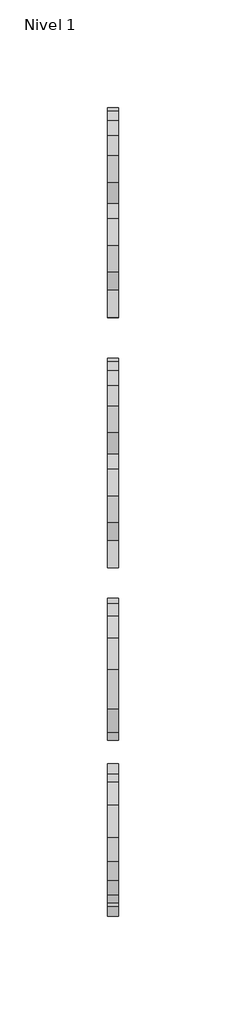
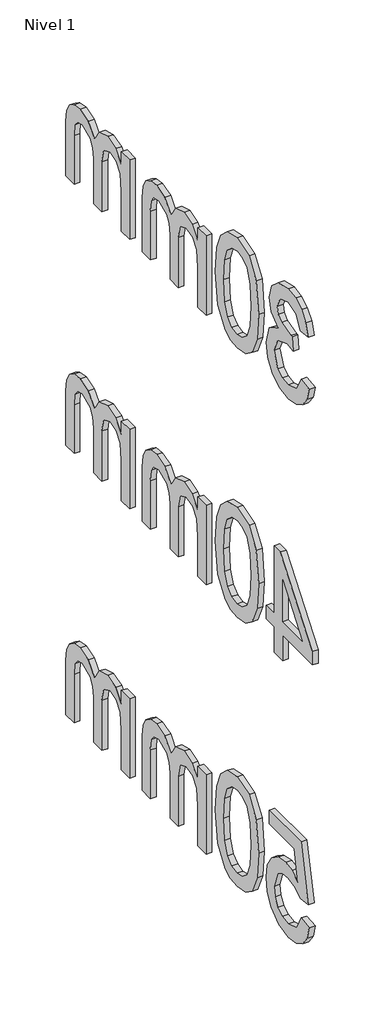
# One storey, incomplete: 3 proxies.
"""IFC4 building model written with IfcOpenShell, lengths in millimetres."""

from ifc_helpers import new_model, si_unit, frame, origin, place, context, project, spatial, polyline, outline, extrude, element, save

model = new_model("IFC4")

# Units and contexts
model_context = context("Model", 3, world=origin())
ifc_project = project(units=[si_unit("LENGTHUNIT", "METRE", prefix="MILLI")], contexts=[model_context])

# Site, building, storey
site = spatial("IfcSite", under=ifc_project)
building = spatial("IfcBuilding", under=site)
storey = spatial("IfcBuildingStorey", under=building, Name="Nivel 1", Elevation=0.0)

# Proxies
placement = place(None, origin())
element("IfcBuildingElementProxy", 1, Name="100mm Arial", ObjectType="100mm Arial", at=placement, inside=storey, context=model_context, shape_type="SweptSolid", body=[
    extrude(outline(polyline([(14811.6332666, -40.4578656), (14824.1903054, -38.8882358), (14831.1187496, -52.1074622), (14844.0804586, -56.1541641), (14852.6888973, -54.7623439), (14859.3352987, -50.5868832), (14865.0006814, -36.8035712), (14859.3843496, -23.8173367), (14845.1105282, -18.6792515), (14836.3058858, -20.0526776), (14837.7038373, -7.4956389), (14839.7149256, -7.6427917), (14853.9642215, -4.0375481), (14858.7098993, 0.5364513), (14860.2917918, 7.0479627), (14855.7055296, 16.8704119), (14843.8842549, 20.7576984), (14831.9158273, 16.8336237), (14825.7599352, 5.0613999), (14813.2028965, 6.6310297), (14816.9001105, 17.9066129), (14823.4790669, 26.3249792), (14832.479913, 31.5672976), (14843.4427965, 33.3147371), (14858.5872719, 29.8689091), (14869.1822734, 20.45113), (14872.8488306, 7.7837267), (14869.3662144, -3.7922935), (14859.0655185, -12.1064266), (14872.7507287, -20.6903398), (14877.5577201, -37.0243004), (14875.1542244, -49.2625081), (14867.9437373, -59.4896275), (14857.0605616, -66.405809), (14843.6390002, -68.7112029), (14831.4988943, -66.7430342), (14821.6151314, -60.8385282), (14814.7418695, -51.8070252), (14811.6332666, -40.4578656)])), frame((9557.0230098, 0.0, 0.0), z_axis=(1.0, 0.0, 0.0), x_axis=(0.0, 1.0, 0.0)), (0.0, 0.0, 1.0), 5.0),
    extrude(outline(polyline([(14888.5451291, -17.7227583), (14892.2362118, 11.1805037), (14903.1990952, 27.8455581), (14921.5073558, 33.3147371), (14936.1735847, 30.0773756), (14946.3026023, 20.7454356), (14952.1887142, 5.883003), (14954.4695826, -17.7227583), (14950.8152881, -46.5033931), (14939.8891929, -63.2052357), (14931.6578332, -67.3347111), (14921.5073558, -68.7112029), (14908.4598077, -66.3199699), (14898.5515193, -59.146271), (14891.0467266, -42.1562542), (14888.5451291, -17.7227583)]), holes=[polyline([(14901.1021678, -17.6982329), (14902.5736958, -37.4504303), (14906.9882798, -48.8823633), (14913.5611047, -54.3362139), (14921.5073558, -56.1541641), (14929.4536069, -54.3300825), (14936.0264319, -48.8578379), (14940.4410159, -37.4197735), (14941.9125438, -17.6982329), (14940.4900668, 1.6094405), (14936.2226356, 13.1302783), (14929.6620734, 18.8508433), (14921.360203, 20.7576984), (14913.4997911, 19.0777039), (14907.1844835, 14.0377206), (14902.6227467, 1.7995129), (14901.1021678, -17.6982329)])]), frame((9557.0230098, 0.0, 0.0), z_axis=(1.0, 0.0, 0.0), x_axis=(0.0, 1.0, 0.0)), (0.0, 0.0, 1.0), 5.0),
    extrude(outline(polyline([(14968.5962512, -67.141573), (14968.5962512, 6.6310297), (14981.15329, 6.6310297), (14981.15329, -5.5090761), (14989.7862541, 4.4360005), (15002.0735128, 8.2006596), (15014.655077, 4.3624241), (15021.5712585, -6.3919929), (15031.3691823, 4.5524965), (15043.7422801, 8.2006596), (15053.181519, 6.6831464), (15060.1620798, 2.1306067), (15064.4754962, -5.5795868), (15065.9133017, -16.5700614), (15065.9133017, -67.141573), (15053.3562629, -67.141573), (15053.3562629, -21.965664), (15052.1913033, -11.4810272), (15047.972923, -6.3184165), (15040.7992241, -4.3563792), (15028.4506518, -9.3840998), (15024.7626348, -15.9262679), (15023.5332958, -25.4973312), (15023.5332958, -67.141573), (15010.9762571, -67.141573), (15010.9762571, -20.5677124), (15008.0699893, -8.4030811), (14998.5418456, -4.3563792), (14989.2466939, -7.0541805), (14983.0662764, -14.9513806), (14981.15329, -29.9364406), (14981.15329, -67.141573), (14968.5962512, -67.141573)])), frame((9557.0230098, 0.0, 0.0), z_axis=(1.0, 0.0, 0.0), x_axis=(0.0, 1.0, 0.0)), (0.0, 0.0, 1.0), 5.0),
    extrude(outline(polyline([(15084.7488598, -67.141573), (15084.7488598, 6.6310297), (15097.3058986, 6.6310297), (15097.3058986, -5.5090761), (15105.9388628, 4.4360005), (15118.2261214, 8.2006596), (15130.8076856, 4.3624241), (15137.7238671, -6.3919929), (15147.5217909, 4.5524965), (15159.8948887, 8.2006596), (15169.3341276, 6.6831464), (15176.3146884, 2.1306067), (15180.6281048, -5.5795868), (15182.0659103, -16.5700614), (15182.0659103, -67.141573), (15169.5088715, -67.141573), (15169.5088715, -21.965664), (15168.3439119, -11.4810272), (15164.1255317, -6.3184165), (15156.9518327, -4.3563792), (15144.6032604, -9.3840998), (15140.9152434, -15.9262679), (15139.6859044, -25.4973312), (15139.6859044, -67.141573), (15127.1288657, -67.141573), (15127.1288657, -20.5677124), (15124.2225979, -8.4030811), (15114.6944542, -4.3563792), (15105.3993025, -7.0541805), (15099.218885, -14.9513806), (15097.3058986, -29.9364406), (15097.3058986, -67.141573), (15084.7488598, -67.141573)])), frame((9557.0230098, 0.0, 0.0), z_axis=(1.0, 0.0, 0.0), x_axis=(0.0, 1.0, 0.0)), (0.0, 0.0, 1.0), 5.0),
])
element("IfcBuildingElementProxy", 2, Name="100mm Arial", ObjectType="100mm Arial", at=placement, inside=storey, context=model_context, shape_type="SweptSolid", body=[
    extrude(outline(polyline([(14852.4436426, -317.141573), (14852.4436426, -293.5971253), (14806.9243771, -293.5971253), (14806.9243771, -281.0400866), (14855.5829023, -218.2548927), (14865.0006814, -218.2548927), (14865.0006814, -281.0400866), (14877.5577201, -281.0400866), (14877.5577201, -293.5971253), (14865.0006814, -293.5971253), (14865.0006814, -317.141573), (14852.4436426, -317.141573)]), holes=[polyline([(14852.4436426, -281.0400866), (14852.4436426, -242.2407988), (14822.3754209, -281.0400866), (14852.4436426, -281.0400866)])]), frame((9557.0230098, 0.0, 0.0), z_axis=(1.0, 0.0, 0.0), x_axis=(0.0, 1.0, 0.0)), (0.0, 0.0, 1.0), 5.0),
    extrude(outline(polyline([(14888.5451291, -267.7227583), (14892.2362118, -238.8194963), (14903.1990952, -222.1544419), (14921.5073558, -216.6852629), (14936.1735847, -219.9226244), (14946.3026023, -229.2545644), (14952.1887142, -244.116997), (14954.4695826, -267.7227583), (14950.8152881, -296.5033931), (14939.8891929, -313.2052357), (14931.6578332, -317.3347111), (14921.5073558, -318.7112029), (14908.4598077, -316.3199699), (14898.5515193, -309.146271), (14891.0467266, -292.1562542), (14888.5451291, -267.7227583)]), holes=[polyline([(14901.1021678, -267.6982329), (14902.5736958, -287.4504303), (14906.9882798, -298.8823633), (14913.5611047, -304.3362139), (14921.5073558, -306.1541641), (14929.4536069, -304.3300825), (14936.0264319, -298.8578379), (14940.4410159, -287.4197735), (14941.9125438, -267.6982329), (14940.4900668, -248.3905595), (14936.2226356, -236.8697217), (14929.6620734, -231.1491567), (14921.360203, -229.2423016), (14913.4997911, -230.9222961), (14907.1844835, -235.9622794), (14902.6227467, -248.2004871), (14901.1021678, -267.6982329)])]), frame((9557.0230098, 0.0, 0.0), z_axis=(1.0, 0.0, 0.0), x_axis=(0.0, 1.0, 0.0)), (0.0, 0.0, 1.0), 5.0),
    extrude(outline(polyline([(14968.5962512, -317.141573), (14968.5962512, -243.3689703), (14981.15329, -243.3689703), (14981.15329, -255.5090761), (14989.7862541, -245.5639995), (15002.0735128, -241.7993404), (15014.655077, -245.6375759), (15021.5712585, -256.3919929), (15031.3691823, -245.4475035), (15043.7422801, -241.7993404), (15053.181519, -243.3168536), (15060.1620798, -247.8693933), (15064.4754962, -255.5795868), (15065.9133017, -266.5700614), (15065.9133017, -317.141573), (15053.3562629, -317.141573), (15053.3562629, -271.965664), (15052.1913033, -261.4810272), (15047.972923, -256.3184165), (15040.7992241, -254.3563792), (15028.4506518, -259.3840998), (15024.7626348, -265.9262679), (15023.5332958, -275.4973312), (15023.5332958, -317.141573), (15010.9762571, -317.141573), (15010.9762571, -270.5677124), (15008.0699893, -258.4030811), (14998.5418456, -254.3563792), (14989.2466939, -257.0541805), (14983.0662764, -264.9513806), (14981.15329, -279.9364406), (14981.15329, -317.141573), (14968.5962512, -317.141573)])), frame((9557.0230098, 0.0, 0.0), z_axis=(1.0, 0.0, 0.0), x_axis=(0.0, 1.0, 0.0)), (0.0, 0.0, 1.0), 5.0),
    extrude(outline(polyline([(15084.7488598, -317.141573), (15084.7488598, -243.3689703), (15097.3058986, -243.3689703), (15097.3058986, -255.5090761), (15105.9388628, -245.5639995), (15118.2261214, -241.7993404), (15130.8076856, -245.6375759), (15137.7238671, -256.3919929), (15147.5217909, -245.4475035), (15159.8948887, -241.7993404), (15169.3341276, -243.3168536), (15176.3146884, -247.8693933), (15180.6281048, -255.5795868), (15182.0659103, -266.5700614), (15182.0659103, -317.141573), (15169.5088715, -317.141573), (15169.5088715, -271.965664), (15168.3439119, -261.4810272), (15164.1255317, -256.3184165), (15156.9518327, -254.3563792), (15144.6032604, -259.3840998), (15140.9152434, -265.9262679), (15139.6859044, -275.4973312), (15139.6859044, -317.141573), (15127.1288657, -317.141573), (15127.1288657, -270.5677124), (15124.2225979, -258.4030811), (15114.6944542, -254.3563792), (15105.3993025, -257.0541805), (15099.218885, -264.9513806), (15097.3058986, -279.9364406), (15097.3058986, -317.141573), (15084.7488598, -317.141573)])), frame((9557.0230098, 0.0, 0.0), z_axis=(1.0, 0.0, 0.0), x_axis=(0.0, 1.0, 0.0)), (0.0, 0.0, 1.0), 5.0),
])
element("IfcBuildingElementProxy", 3, Name="100mm Arial", ObjectType="100mm Arial", at=placement, inside=storey, context=model_context, shape_type="SweptSolid", body=[
    extrude(outline(polyline([(14811.6332666, -540.4578656), (14824.1903054, -538.8882358), (14830.5178757, -551.8254193), (14843.6390002, -556.1541641), (14852.6398463, -554.6489136), (14859.3843496, -550.1331621), (14863.5965984, -543.1280758), (14865.0006814, -534.1548208), (14859.7399688, -519.2433373), (14853.1334213, -515.141453), (14843.8352039, -513.7741583), (14832.8110068, -515.9569248), (14825.7599352, -521.6223075), (14813.2028965, -520.0526776), (14824.1903054, -468.2548927), (14872.8488306, -468.2548927), (14872.8488306, -480.8119315), (14834.3438484, -480.8119315), (14828.9727713, -508.4766575), (14837.9429606, -503.032004), (14847.3423456, -501.2171195), (14859.0747156, -503.467331), (14868.8143914, -510.2179656), (14875.371888, -520.5063988), (14877.5577201, -533.3700059), (14875.5895515, -545.9270446), (14869.6850454, -556.6691989), (14858.3788055, -565.7007019), (14843.5899493, -568.7112029), (14831.2567054, -566.7767567), (14821.4311904, -560.9734182), (14814.6958842, -551.9756378), (14811.6332666, -540.4578656)])), frame((9557.0230098, 0.0, 0.0), z_axis=(1.0, 0.0, 0.0), x_axis=(0.0, 1.0, 0.0)), (0.0, 0.0, 1.0), 5.0),
    extrude(outline(polyline([(14888.5451291, -517.7227583), (14892.2362118, -488.8194963), (14903.1990952, -472.1544419), (14921.5073558, -466.6852629), (14936.1735847, -469.9226244), (14946.3026023, -479.2545644), (14952.1887142, -494.116997), (14954.4695826, -517.7227583), (14950.8152881, -546.5033931), (14939.8891929, -563.2052357), (14931.6578332, -567.3347111), (14921.5073558, -568.7112029), (14908.4598077, -566.3199699), (14898.5515193, -559.146271), (14891.0467266, -542.1562542), (14888.5451291, -517.7227583)]), holes=[polyline([(14901.1021678, -517.6982329), (14902.5736958, -537.4504303), (14906.9882798, -548.8823633), (14913.5611047, -554.3362139), (14921.5073558, -556.1541641), (14929.4536069, -554.3300825), (14936.0264319, -548.8578379), (14940.4410159, -537.4197735), (14941.9125438, -517.6982329), (14940.4900668, -498.3905595), (14936.2226356, -486.8697217), (14929.6620734, -481.1491567), (14921.360203, -479.2423016), (14913.4997911, -480.9222961), (14907.1844835, -485.9622794), (14902.6227467, -498.2004871), (14901.1021678, -517.6982329)])]), frame((9557.0230098, 0.0, 0.0), z_axis=(1.0, 0.0, 0.0), x_axis=(0.0, 1.0, 0.0)), (0.0, 0.0, 1.0), 5.0),
    extrude(outline(polyline([(14968.5962512, -567.141573), (14968.5962512, -493.3689703), (14981.15329, -493.3689703), (14981.15329, -505.5090761), (14989.7862541, -495.5639995), (15002.0735128, -491.7993404), (15014.655077, -495.6375759), (15021.5712585, -506.3919929), (15031.3691823, -495.4475035), (15043.7422801, -491.7993404), (15053.181519, -493.3168536), (15060.1620798, -497.8693933), (15064.4754962, -505.5795868), (15065.9133017, -516.5700614), (15065.9133017, -567.141573), (15053.3562629, -567.141573), (15053.3562629, -521.965664), (15052.1913033, -511.4810272), (15047.972923, -506.3184165), (15040.7992241, -504.3563792), (15028.4506518, -509.3840998), (15024.7626348, -515.9262679), (15023.5332958, -525.4973312), (15023.5332958, -567.141573), (15010.9762571, -567.141573), (15010.9762571, -520.5677124), (15008.0699893, -508.4030811), (14998.5418456, -504.3563792), (14989.2466939, -507.0541805), (14983.0662764, -514.9513806), (14981.15329, -529.9364406), (14981.15329, -567.141573), (14968.5962512, -567.141573)])), frame((9557.0230098, 0.0, 0.0), z_axis=(1.0, 0.0, 0.0), x_axis=(0.0, 1.0, 0.0)), (0.0, 0.0, 1.0), 5.0),
    extrude(outline(polyline([(15084.7488598, -567.141573), (15084.7488598, -493.3689703), (15097.3058986, -493.3689703), (15097.3058986, -505.5090761), (15105.9388628, -495.5639995), (15118.2261214, -491.7993404), (15130.8076856, -495.6375759), (15137.7238671, -506.3919929), (15147.5217909, -495.4475035), (15159.8948887, -491.7993404), (15169.3341276, -493.3168536), (15176.3146884, -497.8693933), (15180.6281048, -505.5795868), (15182.0659103, -516.5700614), (15182.0659103, -567.141573), (15169.5088715, -567.141573), (15169.5088715, -521.965664), (15168.3439119, -511.4810272), (15164.1255317, -506.3184165), (15156.9518327, -504.3563792), (15144.6032604, -509.3840998), (15140.9152434, -515.9262679), (15139.6859044, -525.4973312), (15139.6859044, -567.141573), (15127.1288657, -567.141573), (15127.1288657, -520.5677124), (15124.2225979, -508.4030811), (15114.6944542, -504.3563792), (15105.3993025, -507.0541805), (15099.218885, -514.9513806), (15097.3058986, -529.9364406), (15097.3058986, -567.141573), (15084.7488598, -567.141573)])), frame((9557.0230098, 0.0, 0.0), z_axis=(1.0, 0.0, 0.0), x_axis=(0.0, 1.0, 0.0)), (0.0, 0.0, 1.0), 5.0),
])

save(model, "model.ifc")
